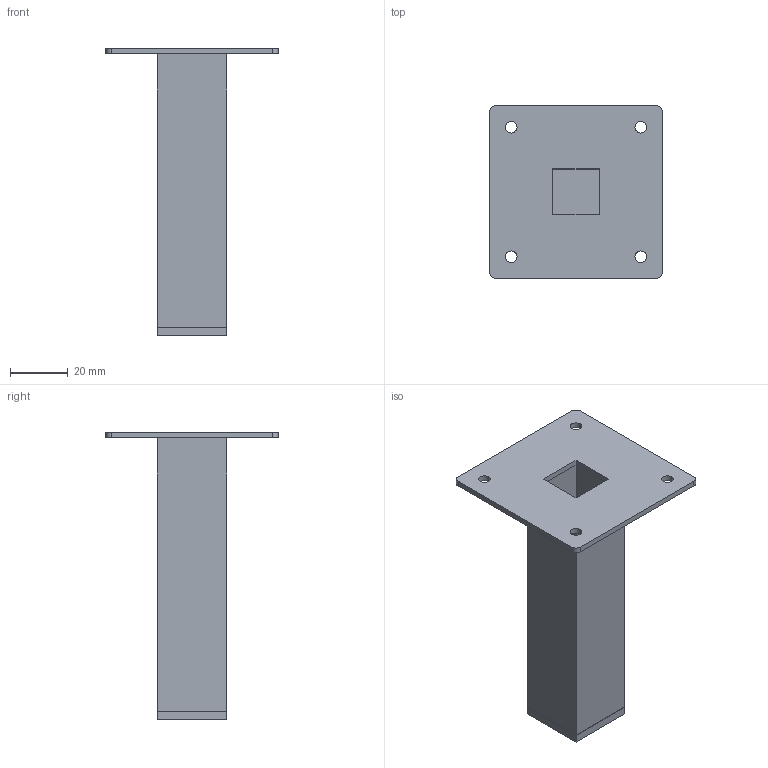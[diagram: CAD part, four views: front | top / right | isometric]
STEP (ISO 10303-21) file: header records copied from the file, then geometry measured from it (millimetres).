
FILE_DESCRIPTION( ( '' ), '1' );
FILE_NAME( 'D:/temp/hettich_stp/hettich/6.5_furniture_legs/table_legs/1376.stp', '2013-02-26T12:27:07', ( '' ), ( '' ), ' ', ' ', ' ' );
FILE_SCHEMA( ( 'automotive_design' ) );
Length unit declared in the file: millimetre
Products named in the file (1): 1
Bounding box: 60 x 60 x 100 mm (x, y, z)
Volume: 17030.4 mm3; surface area: 26198.9 mm2
Topology: 1 solids, 1 shells, 43 faces, 108 edges, 72 vertices
Faces by surface type: plane 31, cylinder 12
Entity records: 2570 total; most frequent: STYLED_ITEM 224, PRESENTATION_STYLE_ASSIGNMENT 224, CARTESIAN_POINT 224, COLOUR_RGB 224, DIRECTION 220, ORIENTED_EDGE 216, EDGE_CURVE 108, CURVE_STYLE 108
